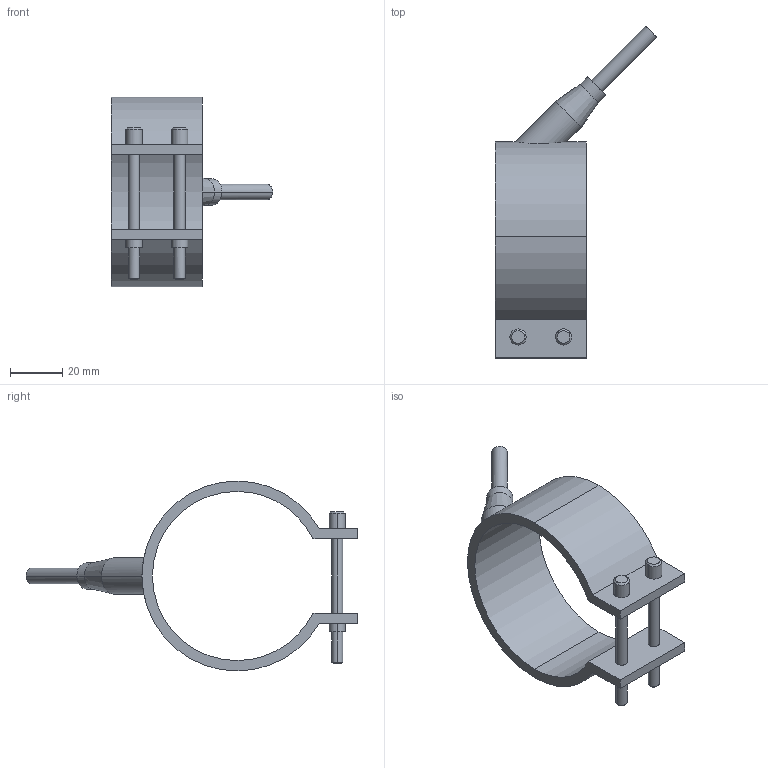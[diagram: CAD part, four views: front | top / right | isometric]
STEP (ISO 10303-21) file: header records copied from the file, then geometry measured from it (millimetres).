
FILE_DESCRIPTION(('CATIA V5 STEP Exchange'),'2;1');
FILE_NAME('C:\Users\Utente\Desktop\IO LAVORO\3D X SITO CF\X SITO\PLASTICA\RF1\29065035.stp','2021-03-27T09:47:59+00:00',('none'),('none'),'CATIA Version 5 Release 20 GA (IN-10)','CATIA V5 STEP AP203','none');
FILE_SCHEMA(('CONFIG_CONTROL_DESIGN'));
Length unit declared in the file: millimetre
Products named in the file (1): 29065035
Bounding box: 62.05 x 127.55 x 73 mm (x, y, z)
Volume: 36679.8 mm3; surface area: 20118.7 mm2
Topology: 1 solids, 1 shells, 54 faces, 126 edges, 82 vertices
Faces by surface type: cylinder 28, plane 16, cone 10
Entity records: 1752 total; most frequent: CARTESIAN_POINT 505, ORIENTED_EDGE 252, DIRECTION 213, EDGE_CURVE 126, AXIS2_PLACEMENT_3D 106, VERTEX_POINT 82, EDGE_LOOP 66, VECTOR 56
